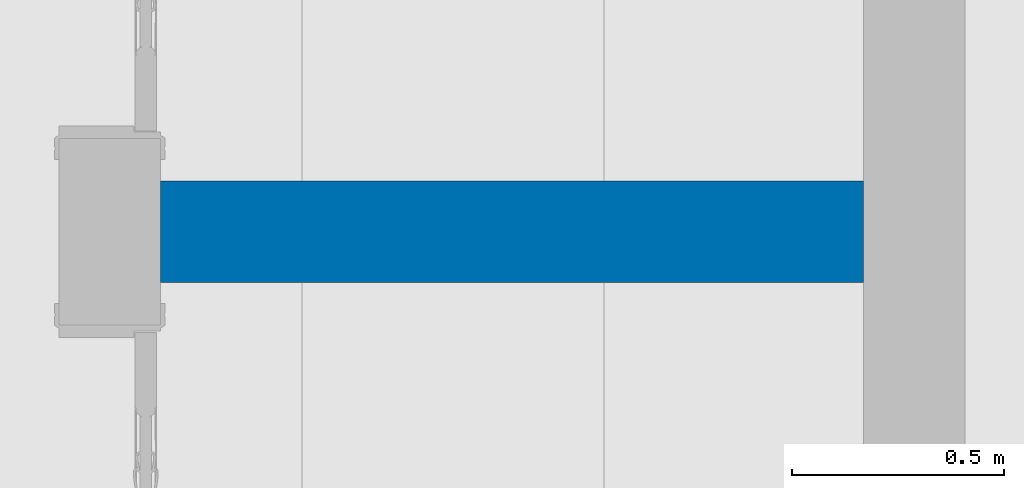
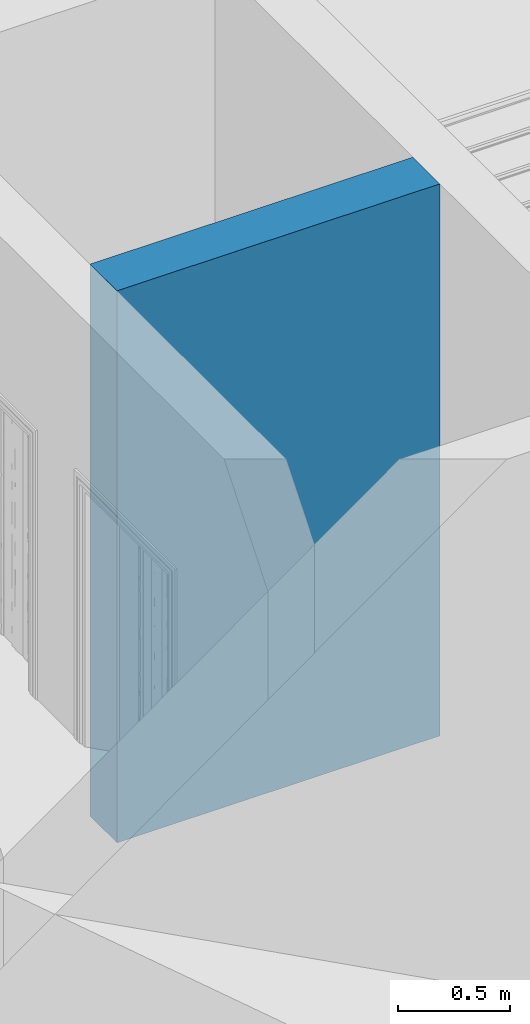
# One storey, part 64 of 82: 1 wall.
"""IFC2X3 building model written with IfcOpenShell, lengths in millimetres."""

import ifcopenshell
import ifcopenshell.guid

model = None  # the IFC model being written
_history = None  # IfcOwnerHistory: only IFC2X3 demands one
_inside = {}  # id of a spatial element -> (the spatial element, [elements in it])
_under = {}  # id of a project, library or spatial element -> (it, [spatial elements below it])
_declared = {}  # id of a project -> (the project, [libraries it declares])
_typed = {}  # id of a type object -> (the type object, [elements of that type])
_made_of = {}  # id of a material, layer set ... -> (it, [elements and type objects made of it])


def new_model(schema):
    """Start an empty IFC model of exactly this schema.

    Asked for "IFC4X3", IfcOpenShell would pick the latest addendum, in which some entities
    have other attributes; the version numbers below select the first issue.
    IFC2X3 requires an IfcOwnerHistory on every rooted entity: one is made here for all.
    """
    global model, _history
    if schema == "IFC4X3":
        model = ifcopenshell.file(schema_version=(4, 3, 0, 0))
    else:
        model = ifcopenshell.file(schema=schema)
    _inside.clear()
    _under.clear()
    _declared.clear()
    _typed.clear()
    _made_of.clear()
    _history = None
    if model.schema == "IFC2X3":
        org = make("IfcOrganization", Name="unknown")
        user = make(
            "IfcPersonAndOrganization",
            ThePerson=make("IfcPerson", FamilyName="unknown"),
            TheOrganization=org,
        )
        app = make(
            "IfcApplication",
            ApplicationDeveloper=org,
            Version="unknown",
            ApplicationFullName="unknown",
            ApplicationIdentifier="unknown",
        )
        _history = make(
            "IfcOwnerHistory",
            OwningUser=user,
            OwningApplication=app,
            ChangeAction="ADDED",
            CreationDate=0,
        )
    return model


def make(cls, **values):
    """One entity of the class cls with the attributes given. An attribute that is None is left unset."""
    return model.create_entity(
        cls, **{name: value for name, value in values.items() if value is not None}
    )


def entity(cls, *values):
    """Any entity or typed value of the class cls, its attributes in the order of the schema. None: left unset."""
    e = model.create_entity(cls)
    for i, value in enumerate(values):
        if value is not None:
            e[i] = value
    return e


def rooted(cls, **values):
    """An entity with a GlobalId (a new one), such as an element, a storey or a relation."""
    return make(cls, GlobalId=ifcopenshell.guid.new(), OwnerHistory=_history, **values)


def si_unit(unit_type, name, prefix=None):
    """IfcSIUnit, for example si_unit("LENGTHUNIT", "METRE", prefix="MILLI")."""
    return make("IfcSIUnit", UnitType=unit_type, Prefix=prefix, Name=name)


def converted_unit(unit_type, name, factor, base, dimensions=None, offset=None):
    """IfcConversionBasedUnit, such as the inch: factor (a typed value) times the base unit."""
    return make(
        "IfcConversionBasedUnit"
        if offset is None
        else "IfcConversionBasedUnitWithOffset",
        ConversionOffset=offset,
        Dimensions=None
        if dimensions is None
        else entity("IfcDimensionalExponents", *dimensions),
        UnitType=unit_type,
        Name=name,
        ConversionFactor=make(
            "IfcMeasureWithUnit", ValueComponent=factor, UnitComponent=base
        ),
    )


def derived_unit(unit_type, elements):
    """IfcDerivedUnit: a product of units, each with its exponent."""
    return make(
        "IfcDerivedUnit",
        Elements=[
            make("IfcDerivedUnitElement", Unit=unit, Exponent=power)
            for unit, power in elements
        ],
        UnitType=unit_type,
    )


def assignment(units):
    """IfcUnitAssignment: the units of a project."""
    return None if units is None else make("IfcUnitAssignment", Units=units)


def point(xyz):
    """IfcCartesianPoint."""
    return None if xyz is None else make("IfcCartesianPoint", Coordinates=xyz)


def direction(xyz):
    """IfcDirection."""
    return None if xyz is None else make("IfcDirection", DirectionRatios=xyz)


def frame(location, z_axis=None, x_axis=None):
    """IfcAxis2Placement3D, a coordinate frame: its origin and axes. An axis left out is left unset."""
    return make(
        "IfcAxis2Placement3D",
        Location=point(location),
        Axis=direction(z_axis),
        RefDirection=direction(x_axis),
    )


def frame_2d(location, x_axis=None):
    """IfcAxis2Placement2D, a coordinate frame in the plane: its origin and x axis."""
    return make(
        "IfcAxis2Placement2D", Location=point(location), RefDirection=direction(x_axis)
    )


def origin():
    """The frame at (0, 0, 0) with its axes left unset."""
    return frame((0.0, 0.0, 0.0))


def place(relative_to, where):
    """IfcLocalPlacement: puts the frame where relative to a parent placement (None: the world)."""
    return make(
        "IfcLocalPlacement", PlacementRelTo=relative_to, RelativePlacement=where
    )


def context(
    kind, dimensions, precision=None, world=None, true_north=None, identifier=None
):
    """IfcGeometricRepresentationContext, for example the 3D "Model" context."""
    return make(
        "IfcGeometricRepresentationContext",
        ContextIdentifier=identifier,
        ContextType=kind,
        CoordinateSpaceDimension=dimensions,
        Precision=precision,
        WorldCoordinateSystem=world,
        TrueNorth=true_north,
    )


def subcontext(parent, identifier, kind, view, scale=None):
    """IfcGeometricRepresentationSubContext, for example "Body" below "Model"."""
    return make(
        "IfcGeometricRepresentationSubContext",
        ContextIdentifier=identifier,
        ContextType=kind,
        ParentContext=parent,
        TargetScale=scale,
        TargetView=view,
    )


def project(units=None, contexts=None):
    """IfcProject with its units and contexts."""
    return rooted(
        "IfcProject",
        Name="project",
        RepresentationContexts=contexts,
        UnitsInContext=assignment(units),
    )


def spatial(cls, under=None, at=None, **own):
    """A site, building, storey or space (cls), placed at a placement, below another one or the project."""
    s = rooted(cls, ObjectPlacement=at, **own)
    if under is not None:
        _under.setdefault(under.id(), (under, []))[1].append(s)
    return s


def profile(cls, at=None, kind="AREA", **sizes):
    """A parametric profile (cls). Its sizes go by their IFC names, for example OverallWidth=200.0."""
    return make(cls, ProfileType=kind, Position=at, **sizes)


def rectangle(**sizes):
    """IfcRectangleProfileDef."""
    return profile("IfcRectangleProfileDef", **sizes)


def extrude(swept, where, along, depth):
    """IfcExtrudedAreaSolid: the profile swept, set in the frame where, extruded along a direction by depth."""
    return make(
        "IfcExtrudedAreaSolid",
        SweptArea=swept,
        Position=where,
        ExtrudedDirection=direction(along),
        Depth=depth,
    )


def shape(context_of_items, identifier, shape_type, items):
    """IfcShapeRepresentation: the items that make up one representation, for example the "Body"."""
    return make(
        "IfcShapeRepresentation",
        ContextOfItems=context_of_items,
        RepresentationIdentifier=identifier,
        RepresentationType=shape_type,
        Items=items,
    )


def material(Name=None, Category=None):
    """IfcMaterial."""
    return make("IfcMaterial", Name=Name, Category=Category)


def layer(
    of_material, thickness, ventilated=None, Name=None, Category=None, Priority=None
):
    """IfcMaterialLayer: one layer of a wall or slab, of a material (None: an air gap)."""
    return make(
        "IfcMaterialLayer",
        Material=of_material,
        LayerThickness=thickness,
        IsVentilated=ventilated,
        Name=Name,
        Category=Category,
        Priority=Priority,
    )


def layer_set(layers, Name=None):
    """IfcMaterialLayerSet."""
    return make("IfcMaterialLayerSet", MaterialLayers=layers, LayerSetName=Name)


def layer_usage(for_layer_set, set_direction, sense, offset, extent=None):
    """IfcMaterialLayerSetUsage: how a layer set lies in its element."""
    return make(
        "IfcMaterialLayerSetUsage",
        ForLayerSet=for_layer_set,
        LayerSetDirection=set_direction,
        DirectionSense=sense,
        OffsetFromReferenceLine=offset,
        ReferenceExtent=extent,
    )


def made_of(thing, what):
    """Note that an element or type object is made of a material, layer set ...; save() writes the relation."""
    if what is not None:
        _made_of.setdefault(what.id(), (what, []))[1].append(thing)
    return thing


def type_object(cls, material=None, **own):
    """A type object (cls), such as IfcWallType, which elements share."""
    return made_of(rooted(cls, **own), material)


def element(
    cls,
    number,
    at=None,
    inside=None,
    cuts=None,
    type_object=None,
    material=None,
    context=None,
    identifier="Body",
    shape_type=None,
    held_by="IfcProductDefinitionShape",
    body=None,
    shapes=None,
    **own,
):
    """One element of the class cls, such as IfcWall. Its Tag is "e" and its number.

    at: its placement. inside: the storey or other place that contains it. cuts: it is an
    opening in that element (IfcRelVoidsElement). A single representation is given by context,
    identifier, shape_type and body (its items); several are given by shapes. held_by: the class
    of the entity that holds the representations. save() writes the other relations.
    """
    e = rooted(cls, Tag="e%d" % number, ObjectPlacement=at, **own)
    if body is not None:
        shapes = [shape(context, identifier, shape_type, body)]
    if shapes is not None:
        e.Representation = make(held_by, Representations=shapes)
    if inside is not None:
        _inside.setdefault(inside.id(), (inside, []))[1].append(e)
    if cuts is not None:
        rooted(
            "IfcRelVoidsElement", RelatingBuildingElement=cuts, RelatedOpeningElement=e
        )
    if type_object is not None:
        _typed.setdefault(type_object.id(), (type_object, []))[1].append(e)
    return made_of(e, material)


def aggregate(whole, parts):
    """IfcRelAggregates: a whole, such as a stair, and the parts it consists of."""
    return rooted("IfcRelAggregates", RelatingObject=whole, RelatedObjects=parts)


def save(model, path):
    """Write the relations noted so far, then the file.

    IfcRelAggregates (storeys below a building ...), IfcRelContainedInSpatialStructure (elements
    in a storey), IfcRelDefinesByType, IfcRelAssociatesMaterial and IfcRelDeclares: one each for
    every whole, place, type object, material and project.
    """
    for whole, parts in _under.values():
        aggregate(whole, parts)
    for where, things in _inside.values():
        rooted(
            "IfcRelContainedInSpatialStructure",
            RelatedElements=things,
            RelatingStructure=where,
        )
    for kind, things in _typed.values():
        rooted("IfcRelDefinesByType", RelatedObjects=things, RelatingType=kind)
    for what, things in _made_of.values():
        rooted("IfcRelAssociatesMaterial", RelatedObjects=things, RelatingMaterial=what)
    for by, libraries in _declared.values():
        rooted("IfcRelDeclares", RelatingContext=by, RelatedDefinitions=libraries)
    model.write(path)


model = new_model("IFC2X3")

# Units and contexts
model_context = context("Model", 3, precision=0.01, world=origin(), true_north=direction((6.12303176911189e-17, 1.0)))
body_context = subcontext(model_context, "Body", "Model", "MODEL_VIEW")
ifc_project = project(units=[si_unit("LENGTHUNIT", "METRE", prefix="MILLI"), si_unit("AREAUNIT", "SQUARE_METRE"), si_unit("VOLUMEUNIT", "CUBIC_METRE"), converted_unit("PLANEANGLEUNIT", "DEGREE", entity("IfcRatioMeasure", 0.0174532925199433), si_unit("PLANEANGLEUNIT", "RADIAN"), dimensions=[0, 0, 0, 0, 0, 0, 0]), si_unit("MASSUNIT", "GRAM", prefix="KILO"), derived_unit("MASSDENSITYUNIT", [(si_unit("MASSUNIT", "GRAM", prefix="KILO"), 1), (si_unit("LENGTHUNIT", "METRE"), -3)]), si_unit("TIMEUNIT", "SECOND"), si_unit("FREQUENCYUNIT", "HERTZ"), si_unit("THERMODYNAMICTEMPERATUREUNIT", "DEGREE_CELSIUS"), derived_unit("THERMALTRANSMITTANCEUNIT", [(si_unit("MASSUNIT", "GRAM", prefix="KILO"), 1), (si_unit("THERMODYNAMICTEMPERATUREUNIT", "KELVIN"), -1), (si_unit("TIMEUNIT", "SECOND"), -3)]), derived_unit("VOLUMETRICFLOWRATEUNIT", [(si_unit("LENGTHUNIT", "METRE"), 3), (si_unit("TIMEUNIT", "SECOND"), -1)]), si_unit("ELECTRICCURRENTUNIT", "AMPERE"), si_unit("ELECTRICVOLTAGEUNIT", "VOLT"), si_unit("POWERUNIT", "WATT"), si_unit("FORCEUNIT", "NEWTON", prefix="KILO"), si_unit("ILLUMINANCEUNIT", "LUX"), si_unit("LUMINOUSFLUXUNIT", "LUMEN"), si_unit("LUMINOUSINTENSITYUNIT", "CANDELA"), derived_unit("USERDEFINED", [(si_unit("MASSUNIT", "GRAM", prefix="KILO"), -1), (si_unit("LENGTHUNIT", "METRE"), -2), (si_unit("TIMEUNIT", "SECOND"), 3), (si_unit("LUMINOUSFLUXUNIT", "LUMEN"), 1)]), derived_unit("LINEARVELOCITYUNIT", [(si_unit("LENGTHUNIT", "METRE"), 1), (si_unit("TIMEUNIT", "SECOND"), -1)]), si_unit("PRESSUREUNIT", "PASCAL"), derived_unit("USERDEFINED", [(si_unit("LENGTHUNIT", "METRE"), -2), (si_unit("MASSUNIT", "GRAM", prefix="KILO"), 1), (si_unit("TIMEUNIT", "SECOND"), -2)])], contexts=[model_context])

# Site, building, storey
site_placement = place(None, origin())
site = spatial("IfcSite", under=ifc_project, at=site_placement, Name="表面", CompositionType="ELEMENT")
building_placement = place(site_placement, origin())
building = spatial("IfcBuilding", under=site, at=building_placement, CompositionType="ELEMENT")
storey_placement = place(building_placement, origin())
storey = spatial("IfcBuildingStorey", under=building, at=storey_placement, Name="1F", CompositionType="ELEMENT", Elevation=0.0)

# Wall
ifc_material_1 = material(Name="白色涂料")
ifc_layer_1 = layer(ifc_material_1, 10.0)
ifc_material_2 = material(Name="默认墙")
ifc_layer_2 = layer(ifc_material_2, 220.0)
ifc_layer_3 = layer(ifc_material_1, 10.0)
ifc_layer_set = layer_set([ifc_layer_1, ifc_layer_2, ifc_layer_3], Name="基本墙:粉刷墙240")
ifc_layer_usage = layer_usage(ifc_layer_set, "AXIS2", "NEGATIVE", 120.0)
wall_type = type_object("IfcWallType", Name="基本墙:粉刷墙240", PredefinedType="STANDARD", material=ifc_layer_set)
wall_placement = place(storey_placement, frame((-8410.24991264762, -316.868426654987, 0.0)))
element("IfcWallStandardCase", 1, at=wall_placement, inside=storey, type_object=wall_type, material=ifc_layer_usage, Name="基本墙:粉刷墙240", ObjectType="基本墙:粉刷墙240", context=body_context, shape_type="SweptSolid", body=[
    extrude(rectangle(XDim=1660.0, YDim=240.0, at=frame_2d((829.999999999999, 1.4210854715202e-14), x_axis=(-1.0, 0.0))), origin(), (0.0, 0.0, 1.0), 3000.00000000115),
])

save(model, "model.ifc")
